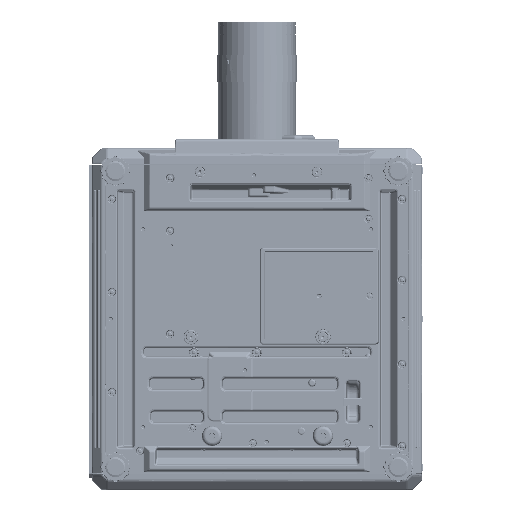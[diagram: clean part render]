
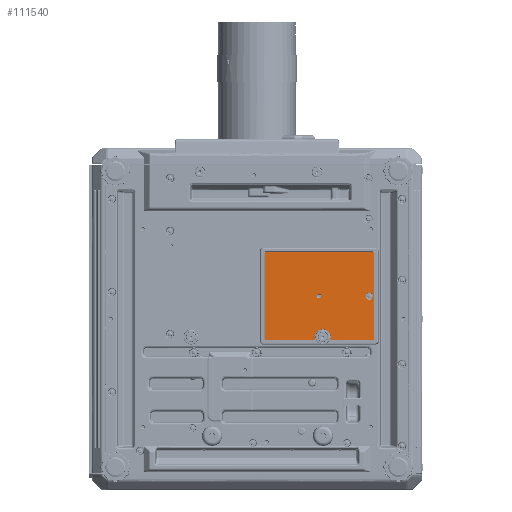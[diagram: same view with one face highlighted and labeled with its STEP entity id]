
A CAD part, front view. The second image highlights one B-rep face of the part: STEP entity #111540.
In plain terms, the highlighted planar face has unit normal (0, -1, 0).
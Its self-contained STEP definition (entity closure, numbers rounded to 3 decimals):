
#9005=ELLIPSE('',#354344,1.504,1.5);
#9006=ELLIPSE('',#354345,1.504,1.5);
#9007=ELLIPSE('',#354347,1.504,1.5);
#9008=ELLIPSE('',#354348,1.504,1.5);
#94874=CIRCLE('',#354341,4.);
#94875=CIRCLE('',#354343,6.125);
#94876=CIRCLE('',#354346,13.358);
#98983=FACE_BOUND('',#137925,.T.);
#98984=FACE_BOUND('',#137926,.T.);
#98985=FACE_BOUND('',#137927,.T.);
#102991=B_SPLINE_CURVE_WITH_KNOTS('',3,(#528669,#528670,#528671,#528672,
#528673,#528674,#528675,#528676,#528677,#528678,#528679,#528680,#528681,
#528682,#528683,#528684,#528685,#528686,#528687),.UNSPECIFIED.,.F.,.F.,
(4,3,3,3,3,3,4),(0.,0.054,0.243,0.432,
0.621,0.811,1.),.UNSPECIFIED.);
#102992=B_SPLINE_CURVE_WITH_KNOTS('',3,(#528691,#528692,#528693,#528694,
#528695,#528696,#528697,#528698,#528699,#528700,#528701,#528702,#528703,
#528704,#528705,#528706,#528707,#528708,#528709),.UNSPECIFIED.,.F.,.F.,
(4,3,3,3,3,3,4),(0.,0.054,0.243,0.432,
0.621,0.811,1.),.UNSPECIFIED.);
#111540=ADVANCED_FACE('',(#98983,#98984,#98985),#118141,.F.);
#118141=PLANE('',#354349);
#137925=EDGE_LOOP('',(#180452));
#137926=EDGE_LOOP('',(#180453));
#137927=EDGE_LOOP('',(#180454,#180455,#180456,#180457,#180458,#180459,#180460,
#180461,#180462,#180463,#180464,#180465));
#180452=ORIENTED_EDGE('',*,*,#268465,.T.);
#180453=ORIENTED_EDGE('',*,*,#268466,.T.);
#180454=ORIENTED_EDGE('',*,*,#268467,.T.);
#180455=ORIENTED_EDGE('',*,*,#268468,.T.);
#180456=ORIENTED_EDGE('',*,*,#268469,.T.);
#180457=ORIENTED_EDGE('',*,*,#268470,.T.);
#180458=ORIENTED_EDGE('',*,*,#268471,.T.);
#180459=ORIENTED_EDGE('',*,*,#268472,.T.);
#180460=ORIENTED_EDGE('',*,*,#268473,.T.);
#180461=ORIENTED_EDGE('',*,*,#268474,.T.);
#180462=ORIENTED_EDGE('',*,*,#268475,.T.);
#180463=ORIENTED_EDGE('',*,*,#268476,.T.);
#180464=ORIENTED_EDGE('',*,*,#268477,.T.);
#180465=ORIENTED_EDGE('',*,*,#268478,.T.);
#224149=VERTEX_POINT('',#528654);
#224150=VERTEX_POINT('',#528657);
#224151=VERTEX_POINT('',#528659);
#224152=VERTEX_POINT('',#528660);
#224153=VERTEX_POINT('',#528662);
#224154=VERTEX_POINT('',#528664);
#224155=VERTEX_POINT('',#528666);
#224156=VERTEX_POINT('',#528668);
#224157=VERTEX_POINT('',#528688);
#224158=VERTEX_POINT('',#528690);
#224159=VERTEX_POINT('',#528710);
#224160=VERTEX_POINT('',#528712);
#224161=VERTEX_POINT('',#528714);
#224162=VERTEX_POINT('',#528716);
#268465=EDGE_CURVE('',#224149,#224149,#94874,.T.);
#268466=EDGE_CURVE('',#224150,#224150,#94875,.T.);
#268467=EDGE_CURVE('',#224151,#224152,#300645,.T.);
#268468=EDGE_CURVE('',#224152,#224153,#9005,.T.);
#268469=EDGE_CURVE('',#224153,#224154,#300646,.T.);
#268470=EDGE_CURVE('',#224154,#224155,#9006,.T.);
#268471=EDGE_CURVE('',#224155,#224156,#300647,.T.);
#268472=EDGE_CURVE('',#224156,#224157,#102991,.T.);
#268473=EDGE_CURVE('',#224157,#224158,#94876,.T.);
#268474=EDGE_CURVE('',#224158,#224159,#102992,.T.);
#268475=EDGE_CURVE('',#224159,#224160,#300648,.T.);
#268476=EDGE_CURVE('',#224160,#224161,#9007,.T.);
#268477=EDGE_CURVE('',#224161,#224162,#300649,.T.);
#268478=EDGE_CURVE('',#224162,#224151,#9008,.T.);
#300645=LINE('',#528658,#326967);
#300646=LINE('',#528663,#326968);
#300647=LINE('',#528667,#326969);
#300648=LINE('',#528711,#326970);
#300649=LINE('',#528715,#326971);
#326967=VECTOR('',#414388,1.);
#326968=VECTOR('',#414391,1.);
#326969=VECTOR('',#414394,1.);
#326970=VECTOR('',#414397,1.);
#326971=VECTOR('',#414400,1.);
#354341=AXIS2_PLACEMENT_3D('',#528653,#414382,#414383);
#354343=AXIS2_PLACEMENT_3D('',#528656,#414386,#414387);
#354344=AXIS2_PLACEMENT_3D('',#528661,#414389,#414390);
#354345=AXIS2_PLACEMENT_3D('',#528665,#414392,#414393);
#354346=AXIS2_PLACEMENT_3D('',#528689,#414395,#414396);
#354347=AXIS2_PLACEMENT_3D('',#528713,#414398,#414399);
#354348=AXIS2_PLACEMENT_3D('',#528717,#414401,#414402);
#354349=AXIS2_PLACEMENT_3D('',#528718,#414403,#414404);
#414382=DIRECTION('',(0.,1.,0.));
#414383=DIRECTION('',(0.,0.,1.));
#414386=DIRECTION('',(0.,1.,0.));
#414387=DIRECTION('',(0.,0.,1.));
#414388=DIRECTION('',(-1.,0.,0.));
#414389=DIRECTION('',(0.,-1.,0.));
#414390=DIRECTION('',(0.707,0.,-0.707));
#414391=DIRECTION('',(0.,0.,-1.));
#414392=DIRECTION('',(0.,-1.,0.));
#414393=DIRECTION('',(-0.707,0.,-0.707));
#414394=DIRECTION('',(1.,0.,0.));
#414395=DIRECTION('',(0.,1.,0.));
#414396=DIRECTION('',(0.,0.,1.));
#414397=DIRECTION('',(1.,0.,0.));
#414398=DIRECTION('',(0.,-1.,0.));
#414399=DIRECTION('',(-0.707,0.,0.707));
#414400=DIRECTION('',(0.,0.,1.));
#414401=DIRECTION('',(0.,-1.,0.));
#414402=DIRECTION('',(-0.707,0.,-0.707));
#414403=DIRECTION('',(0.,1.,0.));
#414404=DIRECTION('',(0.,0.,1.));
#528653=CARTESIAN_POINT('',(103.8,-116.5,-1.5));
#528654=CARTESIAN_POINT('',(103.8,-116.5,2.5));
#528656=CARTESIAN_POINT('',(187.8,-116.5,-1.5));
#528657=CARTESIAN_POINT('',(187.8,-116.5,4.625));
#528658=CARTESIAN_POINT('',(110.,-116.5,71.642));
#528659=CARTESIAN_POINT('',(193.644,-116.5,71.642));
#528660=CARTESIAN_POINT('',(14.356,-116.5,71.642));
#528661=CARTESIAN_POINT('',(14.36,-116.5,70.14));
#528662=CARTESIAN_POINT('',(12.858,-116.5,70.144));
#528663=CARTESIAN_POINT('',(12.858,-116.5,-70.));
#528664=CARTESIAN_POINT('',(12.858,-116.5,-73.144));
#528665=CARTESIAN_POINT('',(14.36,-116.5,-73.14));
#528666=CARTESIAN_POINT('',(14.356,-116.5,-74.642));
#528667=CARTESIAN_POINT('',(110.,-116.5,-74.642));
#528668=CARTESIAN_POINT('',(95.481,-116.5,-74.642));
#528669=CARTESIAN_POINT('',(95.481,-116.5,-74.642));
#528670=CARTESIAN_POINT('',(95.529,-116.5,-74.642));
#528671=CARTESIAN_POINT('',(95.578,-116.5,-74.64));
#528672=CARTESIAN_POINT('',(95.627,-116.5,-74.635));
#528673=CARTESIAN_POINT('',(95.794,-116.5,-74.619));
#528674=CARTESIAN_POINT('',(95.96,-116.5,-74.574));
#528675=CARTESIAN_POINT('',(96.112,-116.5,-74.503));
#528676=CARTESIAN_POINT('',(96.264,-116.5,-74.433));
#528677=CARTESIAN_POINT('',(96.405,-116.5,-74.335));
#528678=CARTESIAN_POINT('',(96.525,-116.5,-74.219));
#528679=CARTESIAN_POINT('',(96.645,-116.5,-74.102));
#528680=CARTESIAN_POINT('',(96.747,-116.5,-73.963));
#528681=CARTESIAN_POINT('',(96.822,-116.5,-73.813));
#528682=CARTESIAN_POINT('',(96.897,-116.5,-73.662));
#528683=CARTESIAN_POINT('',(96.947,-116.5,-73.497));
#528684=CARTESIAN_POINT('',(96.967,-116.5,-73.33));
#528685=CARTESIAN_POINT('',(96.988,-116.5,-73.164));
#528686=CARTESIAN_POINT('',(96.98,-116.5,-72.991));
#528687=CARTESIAN_POINT('',(96.945,-116.5,-72.827));
#528688=CARTESIAN_POINT('',(96.945,-116.5,-72.827));
#528689=CARTESIAN_POINT('',(110.,-116.5,-70.));
#528690=CARTESIAN_POINT('',(123.055,-116.5,-72.827));
#528691=CARTESIAN_POINT('',(123.055,-116.5,-72.827));
#528692=CARTESIAN_POINT('',(123.045,-116.5,-72.875));
#528693=CARTESIAN_POINT('',(123.037,-116.5,-72.923));
#528694=CARTESIAN_POINT('',(123.031,-116.5,-72.972));
#528695=CARTESIAN_POINT('',(123.012,-116.5,-73.138));
#528696=CARTESIAN_POINT('',(123.021,-116.5,-73.31));
#528697=CARTESIAN_POINT('',(123.058,-116.5,-73.473));
#528698=CARTESIAN_POINT('',(123.094,-116.5,-73.637));
#528699=CARTESIAN_POINT('',(123.159,-116.5,-73.796));
#528700=CARTESIAN_POINT('',(123.248,-116.5,-73.938));
#528701=CARTESIAN_POINT('',(123.337,-116.5,-74.08));
#528702=CARTESIAN_POINT('',(123.451,-116.5,-74.209));
#528703=CARTESIAN_POINT('',(123.582,-116.5,-74.313));
#528704=CARTESIAN_POINT('',(123.713,-116.5,-74.418));
#528705=CARTESIAN_POINT('',(123.864,-116.5,-74.502));
#528706=CARTESIAN_POINT('',(124.023,-116.5,-74.558));
#528707=CARTESIAN_POINT('',(124.181,-116.5,-74.613));
#528708=CARTESIAN_POINT('',(124.351,-116.5,-74.642));
#528709=CARTESIAN_POINT('',(124.519,-116.5,-74.642));
#528710=CARTESIAN_POINT('',(124.519,-116.5,-74.642));
#528711=CARTESIAN_POINT('',(110.,-116.5,-74.642));
#528712=CARTESIAN_POINT('',(193.644,-116.5,-74.642));
#528713=CARTESIAN_POINT('',(193.64,-116.5,-73.14));
#528714=CARTESIAN_POINT('',(195.142,-116.5,-73.144));
#528715=CARTESIAN_POINT('',(195.142,-116.5,-70.));
#528716=CARTESIAN_POINT('',(195.142,-116.5,70.144));
#528717=CARTESIAN_POINT('',(193.64,-116.5,70.14));
#528718=CARTESIAN_POINT('',(110.,-116.5,-70.));
